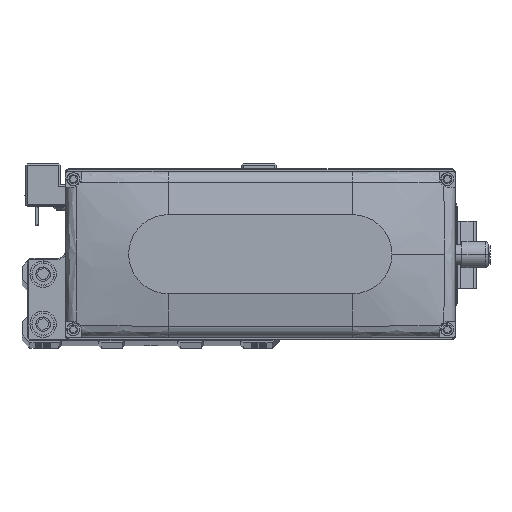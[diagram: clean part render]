
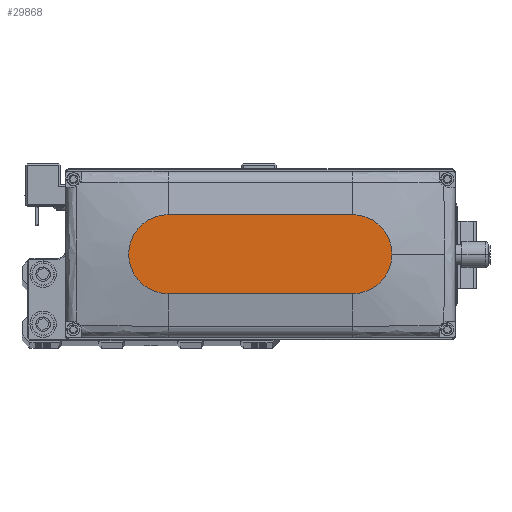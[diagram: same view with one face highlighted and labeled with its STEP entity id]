
A CAD part, top view. The second image highlights one B-rep face of the part: STEP entity #29868.
In plain terms, the highlighted planar face has unit normal (0, 0, 1).
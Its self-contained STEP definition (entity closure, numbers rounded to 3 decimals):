
#593 = DIRECTION ( 'NONE',  ( 0., 0., 1. ) ) ;
#670 = CARTESIAN_POINT ( 'NONE',  ( 35., 0., 35. ) ) ;
#1328 = ORIENTED_EDGE ( 'NONE', *, *, #41890, .T. ) ;
#1644 = EDGE_CURVE ( 'NONE', #36169, #19640, #12266, .T. ) ;
#2142 = FACE_OUTER_BOUND ( 'NONE', #41397, .T. ) ;
#2686 = CARTESIAN_POINT ( 'NONE',  ( 35., -15., 35. ) ) ;
#5039 = EDGE_CURVE ( 'NONE', #27374, #17401, #17114, .T. ) ;
#5718 = ORIENTED_EDGE ( 'NONE', *, *, #44623, .T. ) ;
#7756 = CARTESIAN_POINT ( 'NONE',  ( 50., 0., 35. ) ) ;
#8623 = CARTESIAN_POINT ( 'NONE',  ( -35., 0., 35. ) ) ;
#12266 = LINE ( 'NONE', #26251, #12706 ) ;
#12671 = CARTESIAN_POINT ( 'NONE',  ( -35., -15., 35. ) ) ;
#12693 = DIRECTION ( 'NONE',  ( 1., 0., 0. ) ) ;
#12706 = VECTOR ( 'NONE', #40253, 1000. ) ;
#14589 = DIRECTION ( 'NONE',  ( 1., 0., 0. ) ) ;
#14665 = DIRECTION ( 'NONE',  ( 0., 0., 1. ) ) ;
#15232 = AXIS2_PLACEMENT_3D ( 'NONE', #8623, #22615, #36600 ) ;
#15629 = ORIENTED_EDGE ( 'NONE', *, *, #37270, .T. ) ;
#16143 = PLANE ( 'NONE',  #23300 ) ;
#17114 = LINE ( 'NONE', #31109, #44764 ) ;
#17388 = AXIS2_PLACEMENT_3D ( 'NONE', #670, #14665, #28640 ) ;
#17401 = VERTEX_POINT ( 'NONE', #2686 ) ;
#19309 = CIRCLE ( 'NONE', #44974, 15. ) ;
#19404 = ORIENTED_EDGE ( 'NONE', *, *, #1644, .T. ) ;
#19640 = VERTEX_POINT ( 'NONE', #35783 ) ;
#20010 = VERTEX_POINT ( 'NONE', #7756 ) ;
#22615 = DIRECTION ( 'NONE',  ( 0., 0., 1. ) ) ;
#23300 = AXIS2_PLACEMENT_3D ( 'NONE', #30130, #44134, #12693 ) ;
#25893 = CARTESIAN_POINT ( 'NONE',  ( 35., 15., 35. ) ) ;
#26251 = CARTESIAN_POINT ( 'NONE',  ( -35., 15., 35. ) ) ;
#27374 = VERTEX_POINT ( 'NONE', #12671 ) ;
#28640 = DIRECTION ( 'NONE',  ( 1., 0., 0. ) ) ;
#29868 = ADVANCED_FACE ( 'NONE', ( #2142 ), #16143, .T. ) ;
#30130 = CARTESIAN_POINT ( 'NONE',  ( 0., 0., 35. ) ) ;
#31109 = CARTESIAN_POINT ( 'NONE',  ( -35., -15., 35. ) ) ;
#32022 = CARTESIAN_POINT ( 'NONE',  ( 35., 0., 35. ) ) ;
#35013 = CIRCLE ( 'NONE', #15232, 15. ) ;
#35783 = CARTESIAN_POINT ( 'NONE',  ( -35., 15., 35. ) ) ;
#36169 = VERTEX_POINT ( 'NONE', #25893 ) ;
#36600 = DIRECTION ( 'NONE',  ( 1., 0., 0. ) ) ;
#37201 = CIRCLE ( 'NONE', #17388, 15. ) ;
#37270 = EDGE_CURVE ( 'NONE', #20010, #36169, #37201, .T. ) ;
#38288 = ORIENTED_EDGE ( 'NONE', *, *, #5039, .T. ) ;
#40253 = DIRECTION ( 'NONE',  ( -1., 0., 0. ) ) ;
#41397 = EDGE_LOOP ( 'NONE', ( #19404, #5718, #38288, #1328, #15629 ) ) ;
#41890 = EDGE_CURVE ( 'NONE', #17401, #20010, #19309, .T. ) ;
#44134 = DIRECTION ( 'NONE',  ( 0., 0., 1. ) ) ;
#44623 = EDGE_CURVE ( 'NONE', #19640, #27374, #35013, .T. ) ;
#44764 = VECTOR ( 'NONE', #45119, 1000. ) ;
#44974 = AXIS2_PLACEMENT_3D ( 'NONE', #32022, #593, #14589 ) ;
#45119 = DIRECTION ( 'NONE',  ( 1., 0., 0. ) ) ;
